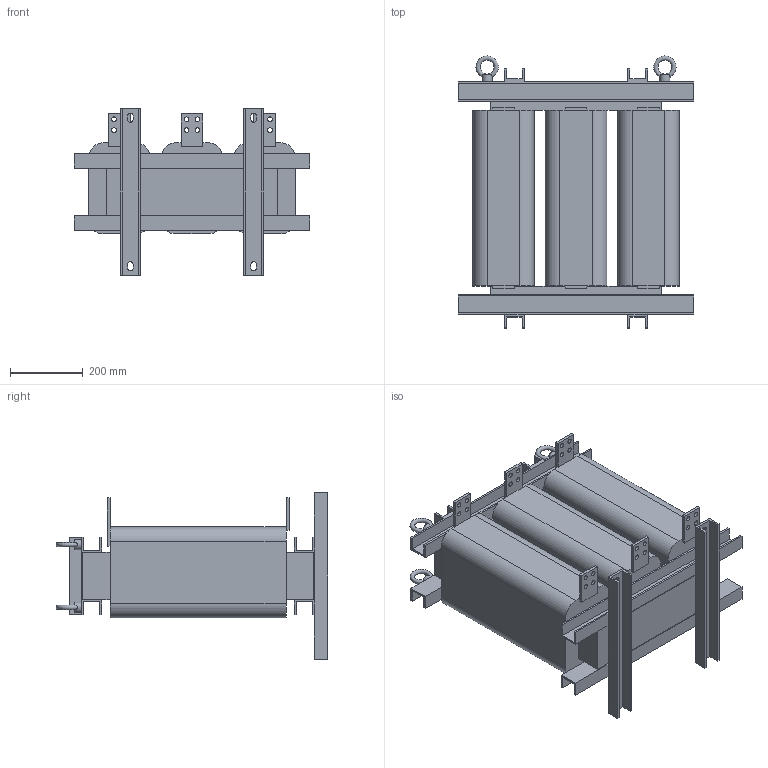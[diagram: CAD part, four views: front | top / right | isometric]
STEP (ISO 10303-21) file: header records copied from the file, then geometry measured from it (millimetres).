
FILE_DESCRIPTION(/* description */ (''),/* implementation_level */ '2;1');
FILE_NAME(/* name */ 'ACO-932-T6-4.stp',/* time_stamp */ '2025-01-23T16:43:30+04:00',/* author */ ('Александр (огранич)'),/* organization */ (''),/* preprocessor_version */ 'ST-DEVELOPER v19.2',/* originating_system */ 'Autodesk Inventor 2024',/* authorisation */ '');
FILE_SCHEMA (('AUTOMOTIVE_DESIGN { 1 0 10303 214 3 1 1 }'));
Length unit declared in the file: millimetre
Products named in the file (1): ACO-0015-T4-4
Bounding box: 650 x 750 x 460 mm (x, y, z)
Volume: 72615209.6 mm3; surface area: 2476062.9 mm2
Topology: 1 solids, 1 shells, 226 faces, 644 edges, 408 vertices
Faces by surface type: plane 174, cylinder 48, torus 4
Full cylindrical faces by diameter (mm): 13 x24, 28 x4
Entity records: 7731 total; most frequent: CARTESIAN_POINT 1631, ORIENTED_EDGE 1288, DIRECTION 1186, EDGE_CURVE 644, LINE 516, VECTOR 516, VERTEX_POINT 408, AXIS2_PLACEMENT_3D 335
